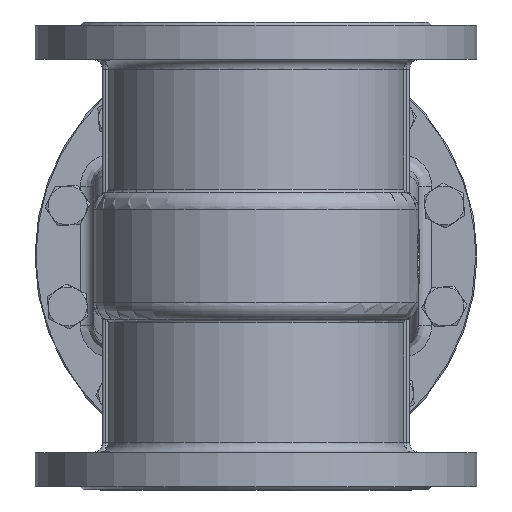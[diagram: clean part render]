
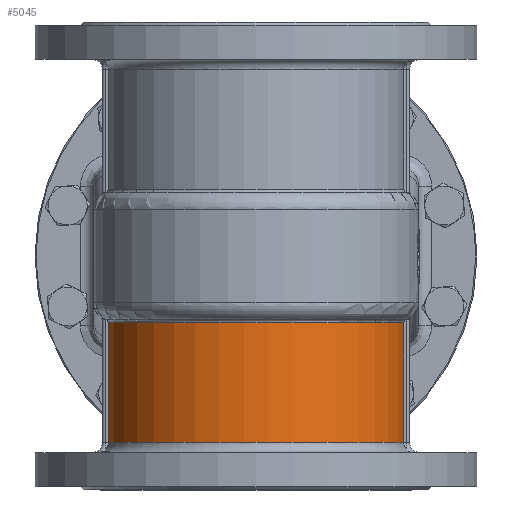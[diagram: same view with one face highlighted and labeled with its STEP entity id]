
A CAD part, front view. The second image highlights one B-rep face of the part: STEP entity #5045.
In plain terms, the highlighted cylindrical face has radius 143.75 mm (diameter 287.5 mm), a partial arc.
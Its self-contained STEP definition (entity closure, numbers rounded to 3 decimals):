
#5045=ADVANCED_FACE('',(#17634),#17636,.T.);
#17634=FACE_BOUND('',#17635,.T.);
#17635=EDGE_LOOP('',(#25517,#25518,#25519,#25520));
#17636=CYLINDRICAL_SURFACE('',#17637,143.75);
#17637=AXIS2_PLACEMENT_3D('',#17638,#17639,#17640);
#17638=CARTESIAN_POINT('',(0.,0.,-176.25));
#17639=DIRECTION('',(0.,0.,1.));
#17640=DIRECTION('',(1.,0.,0.));
#25517=ORIENTED_EDGE('',*,*,#29577,.F.);
#25518=ORIENTED_EDGE('',*,*,#29409,.T.);
#25519=ORIENTED_EDGE('',*,*,#29405,.F.);
#25520=ORIENTED_EDGE('',*,*,#29402,.F.);
#29402=EDGE_CURVE('',#35007,#35010,#35011,.T.);
#29405=EDGE_CURVE('',#35010,#35014,#35015,.T.);
#29409=EDGE_CURVE('',#35018,#35014,#35021,.T.);
#29577=EDGE_CURVE('',#35018,#35007,#35269,.F.);
#35007=VERTEX_POINT('',#80968);
#35010=VERTEX_POINT('',#80973);
#35011=LINE('',#80974,#80975);
#35014=VERTEX_POINT('',#81059);
#35015=CIRCLE('',#81060,143.75);
#35018=VERTEX_POINT('',#81135);
#35021=LINE('',#81142,#81143);
#35269=CIRCLE('',#83583,143.75);
#80968=CARTESIAN_POINT('',(-142.076,-21.875,-179.));
#80973=CARTESIAN_POINT('',(-142.076,-21.875,-64.365));
#80974=CARTESIAN_POINT('',(-142.076,-21.875,-179.));
#80975=VECTOR('',#80976,1.);
#80976=DIRECTION('',(0.,0.,1.));
#81059=CARTESIAN_POINT('',(142.076,-21.875,-64.365));
#81060=AXIS2_PLACEMENT_3D('',#81061,#81062,#81063);
#81061=CARTESIAN_POINT('',(0.,0.,-64.365));
#81062=DIRECTION('',(0.,0.,1.));
#81063=DIRECTION('',(-0.988,-0.152,0.));
#81135=CARTESIAN_POINT('',(142.076,-21.875,-179.));
#81142=CARTESIAN_POINT('',(142.076,-21.875,-179.));
#81143=VECTOR('',#81144,1.);
#81144=DIRECTION('',(0.,0.,1.));
#83583=AXIS2_PLACEMENT_3D('',#83584,#83585,#83586);
#83584=CARTESIAN_POINT('',(0.,0.,-179.));
#83585=DIRECTION('',(0.,0.,1.));
#83586=DIRECTION('',(-0.988,-0.152,0.));
